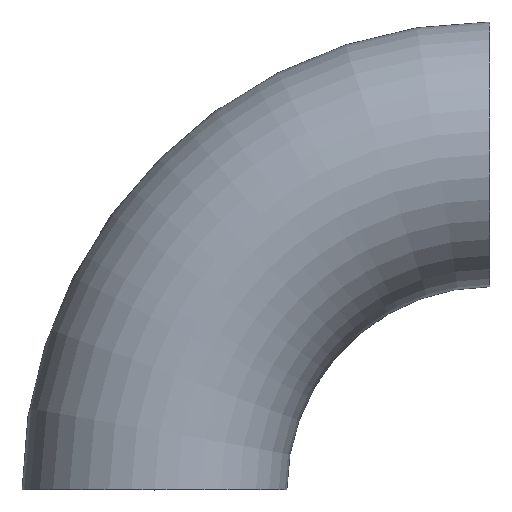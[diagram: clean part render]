
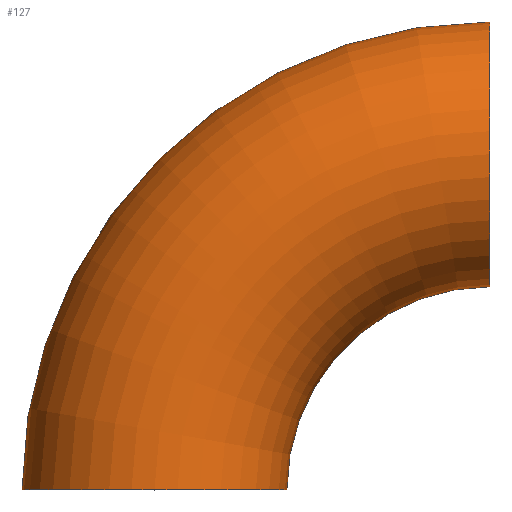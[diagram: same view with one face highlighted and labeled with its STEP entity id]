
A CAD part, top view. The second image highlights one B-rep face of the part: STEP entity #127.
In plain terms, the highlighted toroidal (fillet/blend) face has major radius 38 mm and minor radius 15 mm.
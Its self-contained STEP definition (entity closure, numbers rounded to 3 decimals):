
#4 = DIRECTION ( 'NONE',  ( 0., 0., 1. ) ) ;
#10 = CIRCLE ( 'NONE', #190, 15. ) ;
#13 = ORIENTED_EDGE ( 'NONE', *, *, #70, .T. ) ;
#15 = VERTEX_POINT ( 'NONE', #84 ) ;
#22 = DIRECTION ( 'NONE',  ( 0., 0., 1. ) ) ;
#40 = CARTESIAN_POINT ( 'NONE',  ( 15., 0., 0. ) ) ;
#41 = CARTESIAN_POINT ( 'NONE',  ( -15., 0., 0. ) ) ;
#62 = CIRCLE ( 'NONE', #156, 53. ) ;
#63 = EDGE_CURVE ( 'NONE', #15, #110, #111, .T. ) ;
#69 = CARTESIAN_POINT ( 'NONE',  ( 38., 0., 0. ) ) ;
#70 = EDGE_CURVE ( 'NONE', #98, #107, #10, .T. ) ;
#84 = CARTESIAN_POINT ( 'NONE',  ( 38., 53., 0. ) ) ;
#98 = VERTEX_POINT ( 'NONE', #41 ) ;
#107 = VERTEX_POINT ( 'NONE', #40 ) ;
#110 = VERTEX_POINT ( 'NONE', #221 ) ;
#111 = CIRCLE ( 'NONE', #161, 15. ) ;
#114 = CIRCLE ( 'NONE', #212, 23. ) ;
#127 = ADVANCED_FACE ( 'NONE', ( #251 ), #205, .T. ) ;
#128 = ORIENTED_EDGE ( 'NONE', *, *, #63, .F. ) ;
#130 = AXIS2_PLACEMENT_3D ( 'NONE', #69, #4, #237 ) ;
#141 = EDGE_CURVE ( 'NONE', #110, #107, #114, .T. ) ;
#147 = DIRECTION ( 'NONE',  ( 0., 0., 1. ) ) ;
#149 = DIRECTION ( 'NONE',  ( 1., 0., 0. ) ) ;
#156 = AXIS2_PLACEMENT_3D ( 'NONE', #225, #22, #164 ) ;
#161 = AXIS2_PLACEMENT_3D ( 'NONE', #189, #167, #147 ) ;
#163 = DIRECTION ( 'NONE',  ( 0., 1., 0. ) ) ;
#164 = DIRECTION ( 'NONE',  ( 1., 0., 0. ) ) ;
#166 = ORIENTED_EDGE ( 'NONE', *, *, #196, .T. ) ;
#167 = DIRECTION ( 'NONE',  ( 1., 0., 0. ) ) ;
#177 = EDGE_LOOP ( 'NONE', ( #128, #166, #13, #186 ) ) ;
#184 = DIRECTION ( 'NONE',  ( 0., 0., 1. ) ) ;
#186 = ORIENTED_EDGE ( 'NONE', *, *, #141, .F. ) ;
#189 = CARTESIAN_POINT ( 'NONE',  ( 38., 38., 0. ) ) ;
#190 = AXIS2_PLACEMENT_3D ( 'NONE', #202, #163, #241 ) ;
#196 = EDGE_CURVE ( 'NONE', #15, #98, #62, .T. ) ;
#202 = CARTESIAN_POINT ( 'NONE',  ( 0., 0., 0. ) ) ;
#205 = TOROIDAL_SURFACE ( 'NONE', #130, 38., 15. ) ;
#212 = AXIS2_PLACEMENT_3D ( 'NONE', #240, #184, #149 ) ;
#221 = CARTESIAN_POINT ( 'NONE',  ( 38., 23., 0. ) ) ;
#225 = CARTESIAN_POINT ( 'NONE',  ( 38., 0., 0. ) ) ;
#237 = DIRECTION ( 'NONE',  ( 1., 0., 0. ) ) ;
#240 = CARTESIAN_POINT ( 'NONE',  ( 38., 0., 0. ) ) ;
#241 = DIRECTION ( 'NONE',  ( 0., 0., 1. ) ) ;
#251 = FACE_OUTER_BOUND ( 'NONE', #177, .T. ) ;
